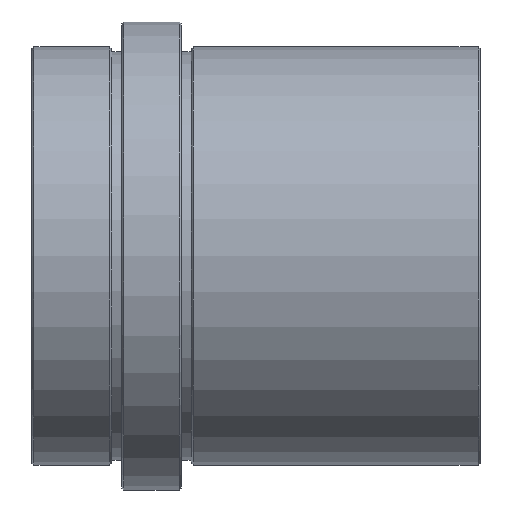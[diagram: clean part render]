
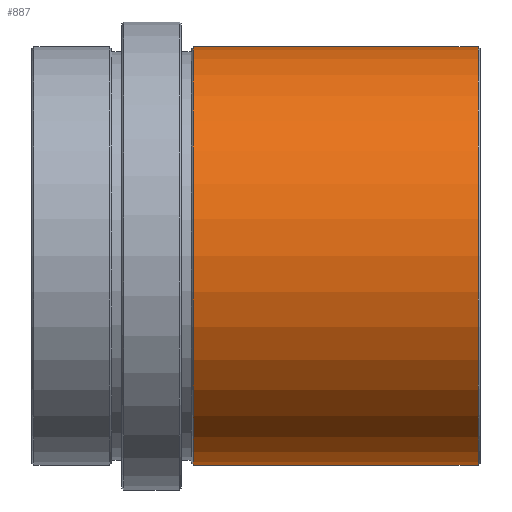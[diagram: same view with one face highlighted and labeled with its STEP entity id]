
A CAD part, top view. The second image highlights one B-rep face of the part: STEP entity #887.
In plain terms, the highlighted cylindrical face has radius 21 mm (diameter 42 mm), a partial arc.
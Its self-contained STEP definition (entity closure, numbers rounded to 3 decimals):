
#113 = DIRECTION ( 'NONE',  ( 0., 1., 0. ) ) ;
#115 = CARTESIAN_POINT ( 'NONE',  ( 0., 0., 0. ) ) ;
#116 = FACE_OUTER_BOUND ( 'NONE', #812, .T. ) ;
#117 = CYLINDRICAL_SURFACE ( 'NONE', #304, 21. ) ;
#119 = DIRECTION ( 'NONE',  ( 1., 0., 0. ) ) ;
#185 = DIRECTION ( 'NONE',  ( 1., 0., 0. ) ) ;
#186 = CARTESIAN_POINT ( 'NONE',  ( 0., -21., 0. ) ) ;
#187 = LINE ( 'NONE', #186, #280 ) ;
#192 = DIRECTION ( 'NONE',  ( 1., 0., 0. ) ) ;
#197 = LINE ( 'NONE', #199, #221 ) ;
#199 = CARTESIAN_POINT ( 'NONE',  ( 0., 21., 0. ) ) ;
#221 = VECTOR ( 'NONE', #192, 1000. ) ;
#222 = AXIS2_PLACEMENT_3D ( 'NONE', #450, #449, #451 ) ;
#226 = CIRCLE ( 'NONE', #222, 21. ) ;
#228 = AXIS2_PLACEMENT_3D ( 'NONE', #468, #466, #465 ) ;
#232 = CIRCLE ( 'NONE', #228, 21. ) ;
#280 = VECTOR ( 'NONE', #185, 1000. ) ;
#304 = AXIS2_PLACEMENT_3D ( 'NONE', #115, #119, #113 ) ;
#449 = DIRECTION ( 'NONE',  ( -1., 0., 0. ) ) ;
#450 = CARTESIAN_POINT ( 'NONE',  ( -0.2, 0., 0. ) ) ;
#451 = DIRECTION ( 'NONE',  ( 0., 1., 0. ) ) ;
#465 = DIRECTION ( 'NONE',  ( 0., -1., 0. ) ) ;
#466 = DIRECTION ( 'NONE',  ( 1., 0., 0. ) ) ;
#468 = CARTESIAN_POINT ( 'NONE',  ( -28.8, 0., 0. ) ) ;
#514 = VERTEX_POINT ( 'NONE', #637 ) ;
#518 = VERTEX_POINT ( 'NONE', #635 ) ;
#525 = VERTEX_POINT ( 'NONE', #634 ) ;
#607 = ORIENTED_EDGE ( 'NONE', *, *, #871, .T. ) ;
#608 = CARTESIAN_POINT ( 'NONE',  ( -0.2, 21., 0. ) ) ;
#611 = ORIENTED_EDGE ( 'NONE', *, *, #854, .T. ) ;
#634 = CARTESIAN_POINT ( 'NONE',  ( -28.8, 21., 0. ) ) ;
#635 = CARTESIAN_POINT ( 'NONE',  ( -0.2, -21., 0. ) ) ;
#637 = CARTESIAN_POINT ( 'NONE',  ( -28.8, -21., 0. ) ) ;
#711 = VERTEX_POINT ( 'NONE', #608 ) ;
#765 = ORIENTED_EDGE ( 'NONE', *, *, #865, .F. ) ;
#766 = ORIENTED_EDGE ( 'NONE', *, *, #858, .T. ) ;
#812 = EDGE_LOOP ( 'NONE', ( #611, #607, #766, #765 ) ) ;
#854 = EDGE_CURVE ( 'NONE', #525, #514, #232, .T. ) ;
#858 = EDGE_CURVE ( 'NONE', #518, #711, #226, .T. ) ;
#865 = EDGE_CURVE ( 'NONE', #525, #711, #197, .T. ) ;
#871 = EDGE_CURVE ( 'NONE', #514, #518, #187, .T. ) ;
#887 = ADVANCED_FACE ( 'NONE', ( #116 ), #117, .T. ) ;
